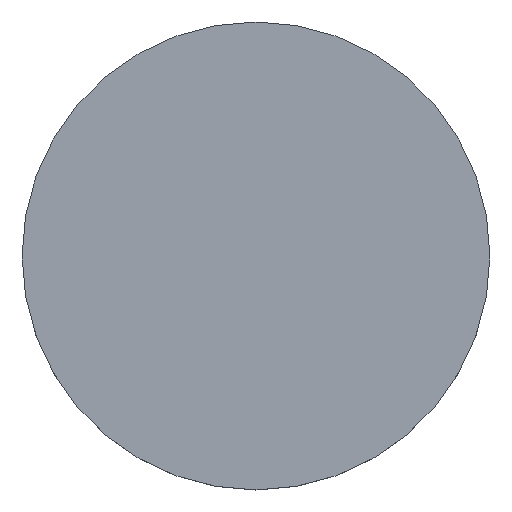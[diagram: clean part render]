
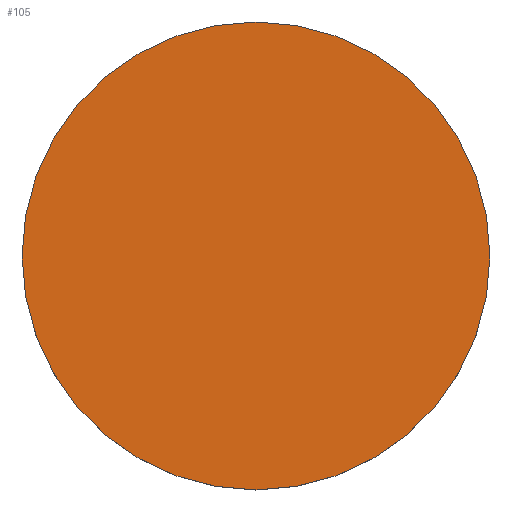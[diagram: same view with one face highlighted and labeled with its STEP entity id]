
A CAD part, top view. The second image highlights one B-rep face of the part: STEP entity #105.
In plain terms, the highlighted planar face has unit normal (0, 0, 1).
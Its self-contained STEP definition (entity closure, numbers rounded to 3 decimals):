
#21 = EDGE_CURVE('',#22,#22,#24,.T.);
#22 = VERTEX_POINT('',#23);
#23 = CARTESIAN_POINT('',(92.5,228.,95.));
#24 = SURFACE_CURVE('',#25,(#30,#42),.PCURVE_S1.);
#25 = CIRCLE('',#26,25.);
#26 = AXIS2_PLACEMENT_3D('',#27,#28,#29);
#27 = CARTESIAN_POINT('',(67.5,228.,95.));
#28 = DIRECTION('',(0.,0.,1.));
#29 = DIRECTION('',(1.,0.,-0.));
#30 = PCURVE('',#31,#36);
#31 = CYLINDRICAL_SURFACE('',#32,25.);
#32 = AXIS2_PLACEMENT_3D('',#33,#34,#35);
#33 = CARTESIAN_POINT('',(67.5,228.,89.));
#34 = DIRECTION('',(0.,0.,1.));
#35 = DIRECTION('',(1.,0.,-0.));
#36 = DEFINITIONAL_REPRESENTATION('',(#37),#41);
#37 = LINE('',#38,#39);
#38 = CARTESIAN_POINT('',(0.,6.));
#39 = VECTOR('',#40,1.);
#40 = DIRECTION('',(1.,0.));
#41 = ( GEOMETRIC_REPRESENTATION_CONTEXT(2) 
PARAMETRIC_REPRESENTATION_CONTEXT() REPRESENTATION_CONTEXT('2D SPACE',''
  ) );
#42 = PCURVE('',#43,#48);
#43 = PLANE('',#44);
#44 = AXIS2_PLACEMENT_3D('',#45,#46,#47);
#45 = CARTESIAN_POINT('',(67.5,228.,95.));
#46 = DIRECTION('',(0.,0.,1.));
#47 = DIRECTION('',(1.,0.,-0.));
#48 = DEFINITIONAL_REPRESENTATION('',(#49),#53);
#49 = CIRCLE('',#50,25.);
#50 = AXIS2_PLACEMENT_2D('',#51,#52);
#51 = CARTESIAN_POINT('',(0.,0.));
#52 = DIRECTION('',(1.,0.));
#53 = ( GEOMETRIC_REPRESENTATION_CONTEXT(2) 
PARAMETRIC_REPRESENTATION_CONTEXT() REPRESENTATION_CONTEXT('2D SPACE',''
  ) );
#105 = ADVANCED_FACE('',(#106),#43,.T.);
#106 = FACE_BOUND('',#107,.T.);
#107 = EDGE_LOOP('',(#108));
#108 = ORIENTED_EDGE('',*,*,#21,.T.);
